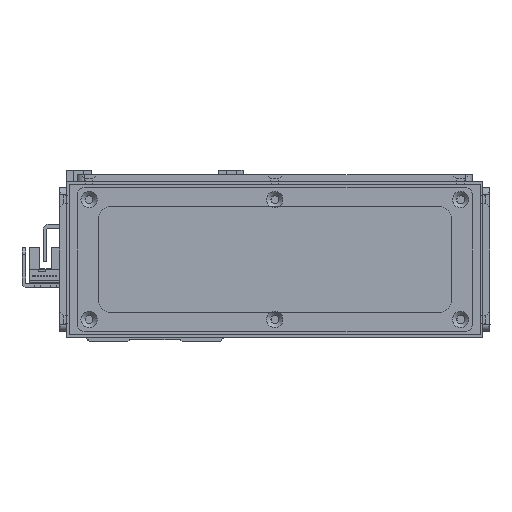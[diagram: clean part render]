
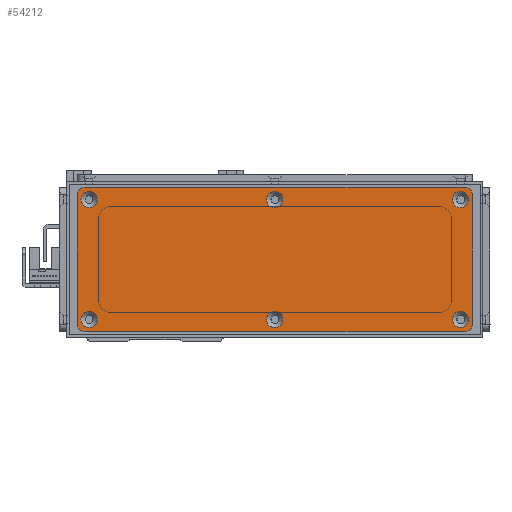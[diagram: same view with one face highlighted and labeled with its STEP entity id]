
A CAD part, left-side view. The second image highlights one B-rep face of the part: STEP entity #54212.
In plain terms, the highlighted planar face has unit normal (-1, 0, 0) as drawn and (0, 0, 1) by its records, which use the part's own axes.
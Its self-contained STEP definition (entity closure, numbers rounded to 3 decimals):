
#2537=FACE_BOUND('',#9060,.T.);
#2538=FACE_BOUND('',#9061,.T.);
#2539=FACE_BOUND('',#9062,.T.);
#2540=FACE_BOUND('',#9063,.T.);
#2541=FACE_BOUND('',#9064,.T.);
#2542=FACE_BOUND('',#9065,.T.);
#3171=PLANE('',#58564);
#5853=FACE_OUTER_BOUND('',#9059,.T.);
#9059=EDGE_LOOP('',(#43093,#43094,#43095,#43096,#43097,#43098,#43099,#43100));
#9060=EDGE_LOOP('',(#43101));
#9061=EDGE_LOOP('',(#43102));
#9062=EDGE_LOOP('',(#43103));
#9063=EDGE_LOOP('',(#43104));
#9064=EDGE_LOOP('',(#43105));
#9065=EDGE_LOOP('',(#43106));
#12544=LINE('',#81606,#18756);
#12547=LINE('',#81614,#18759);
#12550=LINE('',#81622,#18762);
#12553=LINE('',#81629,#18765);
#18756=VECTOR('',#66683,10.);
#18759=VECTOR('',#66692,10.);
#18762=VECTOR('',#66701,10.);
#18765=VECTOR('',#66710,10.);
#24399=CIRCLE('',#58518,3.45);
#24402=CIRCLE('',#58523,3.45);
#24405=CIRCLE('',#58528,3.45);
#24408=CIRCLE('',#58533,3.45);
#24411=CIRCLE('',#58538,3.45);
#24414=CIRCLE('',#58543,3.45);
#24421=CIRCLE('',#58553,3.);
#24422=CIRCLE('',#58556,3.);
#24423=CIRCLE('',#58559,3.);
#24424=CIRCLE('',#58562,3.);
#26504=VERTEX_POINT('',#81522);
#26507=VERTEX_POINT('',#81532);
#26510=VERTEX_POINT('',#81542);
#26513=VERTEX_POINT('',#81552);
#26516=VERTEX_POINT('',#81562);
#26519=VERTEX_POINT('',#81572);
#26530=VERTEX_POINT('',#81599);
#26531=VERTEX_POINT('',#81601);
#26532=VERTEX_POINT('',#81605);
#26533=VERTEX_POINT('',#81609);
#26534=VERTEX_POINT('',#81613);
#26535=VERTEX_POINT('',#81617);
#26536=VERTEX_POINT('',#81621);
#26537=VERTEX_POINT('',#81625);
#32527=EDGE_CURVE('',#26504,#26504,#24399,.T.);
#32532=EDGE_CURVE('',#26507,#26507,#24402,.T.);
#32537=EDGE_CURVE('',#26510,#26510,#24405,.T.);
#32542=EDGE_CURVE('',#26513,#26513,#24408,.T.);
#32547=EDGE_CURVE('',#26516,#26516,#24411,.T.);
#32552=EDGE_CURVE('',#26519,#26519,#24414,.T.);
#32566=EDGE_CURVE('',#26531,#26530,#24421,.T.);
#32568=EDGE_CURVE('',#26532,#26531,#12544,.T.);
#32570=EDGE_CURVE('',#26533,#26532,#24422,.T.);
#32572=EDGE_CURVE('',#26534,#26533,#12547,.T.);
#32574=EDGE_CURVE('',#26535,#26534,#24423,.T.);
#32576=EDGE_CURVE('',#26536,#26535,#12550,.T.);
#32578=EDGE_CURVE('',#26537,#26536,#24424,.T.);
#32580=EDGE_CURVE('',#26530,#26537,#12553,.T.);
#43093=ORIENTED_EDGE('',*,*,#32580,.T.);
#43094=ORIENTED_EDGE('',*,*,#32578,.T.);
#43095=ORIENTED_EDGE('',*,*,#32576,.T.);
#43096=ORIENTED_EDGE('',*,*,#32574,.T.);
#43097=ORIENTED_EDGE('',*,*,#32572,.T.);
#43098=ORIENTED_EDGE('',*,*,#32570,.T.);
#43099=ORIENTED_EDGE('',*,*,#32568,.T.);
#43100=ORIENTED_EDGE('',*,*,#32566,.T.);
#43101=ORIENTED_EDGE('',*,*,#32527,.T.);
#43102=ORIENTED_EDGE('',*,*,#32532,.T.);
#43103=ORIENTED_EDGE('',*,*,#32537,.T.);
#43104=ORIENTED_EDGE('',*,*,#32542,.T.);
#43105=ORIENTED_EDGE('',*,*,#32547,.T.);
#43106=ORIENTED_EDGE('',*,*,#32552,.T.);
#54212=ADVANCED_FACE('',(#5853,#2537,#2538,#2539,#2540,#2541,#2542),#3171,
 .T.);
#58518=AXIS2_PLACEMENT_3D('',#81523,#66591,#66592);
#58523=AXIS2_PLACEMENT_3D('',#81533,#66603,#66604);
#58528=AXIS2_PLACEMENT_3D('',#81543,#66615,#66616);
#58533=AXIS2_PLACEMENT_3D('',#81553,#66627,#66628);
#58538=AXIS2_PLACEMENT_3D('',#81563,#66639,#66640);
#58543=AXIS2_PLACEMENT_3D('',#81573,#66651,#66652);
#58553=AXIS2_PLACEMENT_3D('',#81602,#66678,#66679);
#58556=AXIS2_PLACEMENT_3D('',#81610,#66687,#66688);
#58559=AXIS2_PLACEMENT_3D('',#81618,#66696,#66697);
#58562=AXIS2_PLACEMENT_3D('',#81626,#66705,#66706);
#58564=AXIS2_PLACEMENT_3D('',#81630,#66711,#66712);
#66591=DIRECTION('center_axis',(0.,0.,-1.));
#66592=DIRECTION('ref_axis',(1.,0.,0.));
#66603=DIRECTION('center_axis',(0.,0.,-1.));
#66604=DIRECTION('ref_axis',(1.,0.,0.));
#66615=DIRECTION('center_axis',(0.,0.,-1.));
#66616=DIRECTION('ref_axis',(1.,0.,0.));
#66627=DIRECTION('center_axis',(0.,0.,-1.));
#66628=DIRECTION('ref_axis',(1.,0.,0.));
#66639=DIRECTION('center_axis',(0.,0.,-1.));
#66640=DIRECTION('ref_axis',(1.,0.,0.));
#66651=DIRECTION('center_axis',(0.,0.,-1.));
#66652=DIRECTION('ref_axis',(1.,0.,0.));
#66678=DIRECTION('center_axis',(0.,0.,1.));
#66679=DIRECTION('ref_axis',(-1.,0.,0.));
#66683=DIRECTION('',(0.,1.,0.));
#66687=DIRECTION('center_axis',(0.,0.,1.));
#66688=DIRECTION('ref_axis',(0.,1.,0.));
#66692=DIRECTION('',(1.,0.,0.));
#66696=DIRECTION('center_axis',(0.,0.,1.));
#66697=DIRECTION('ref_axis',(1.,0.,0.));
#66701=DIRECTION('',(0.,-1.,0.));
#66705=DIRECTION('center_axis',(0.,0.,1.));
#66706=DIRECTION('ref_axis',(0.,-1.,0.));
#66710=DIRECTION('',(-1.,0.,0.));
#66711=DIRECTION('center_axis',(0.,0.,1.));
#66712=DIRECTION('ref_axis',(1.,0.,0.));
#81522=CARTESIAN_POINT('',(-3.45,25.5,1.5));
#81523=CARTESIAN_POINT('Origin',(0.,25.5,1.5));
#81532=CARTESIAN_POINT('',(75.55,-25.5,1.5));
#81533=CARTESIAN_POINT('Origin',(79.,-25.5,1.5));
#81542=CARTESIAN_POINT('',(-82.45,25.5,1.5));
#81543=CARTESIAN_POINT('Origin',(-79.,25.5,1.5));
#81552=CARTESIAN_POINT('',(75.55,25.5,1.5));
#81553=CARTESIAN_POINT('Origin',(79.,25.5,1.5));
#81562=CARTESIAN_POINT('',(-82.45,-25.5,1.5));
#81563=CARTESIAN_POINT('Origin',(-79.,-25.5,1.5));
#81572=CARTESIAN_POINT('',(-3.45,-25.5,1.5));
#81573=CARTESIAN_POINT('Origin',(0.,-25.5,1.5));
#81599=CARTESIAN_POINT('',(81.,30.5,1.5));
#81601=CARTESIAN_POINT('',(84.,27.5,1.5));
#81602=CARTESIAN_POINT('Origin',(81.,27.5,1.5));
#81605=CARTESIAN_POINT('',(84.,-27.5,1.5));
#81606=CARTESIAN_POINT('',(84.,27.5,1.5));
#81609=CARTESIAN_POINT('',(81.,-30.5,1.5));
#81610=CARTESIAN_POINT('Origin',(81.,-27.5,1.5));
#81613=CARTESIAN_POINT('',(-81.,-30.5,1.5));
#81614=CARTESIAN_POINT('',(81.,-30.5,1.5));
#81617=CARTESIAN_POINT('',(-84.,-27.5,1.5));
#81618=CARTESIAN_POINT('Origin',(-81.,-27.5,1.5));
#81621=CARTESIAN_POINT('',(-84.,27.5,1.5));
#81622=CARTESIAN_POINT('',(-84.,-27.5,1.5));
#81625=CARTESIAN_POINT('',(-81.,30.5,1.5));
#81626=CARTESIAN_POINT('Origin',(-81.,27.5,1.5));
#81629=CARTESIAN_POINT('',(-81.,30.5,1.5));
#81630=CARTESIAN_POINT('Origin',(0.,0.,
1.5));
